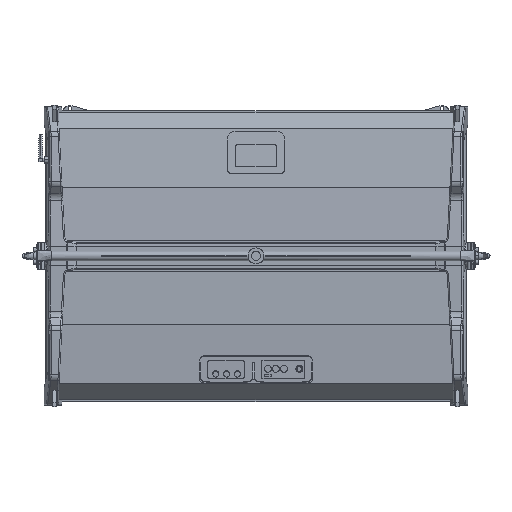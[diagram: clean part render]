
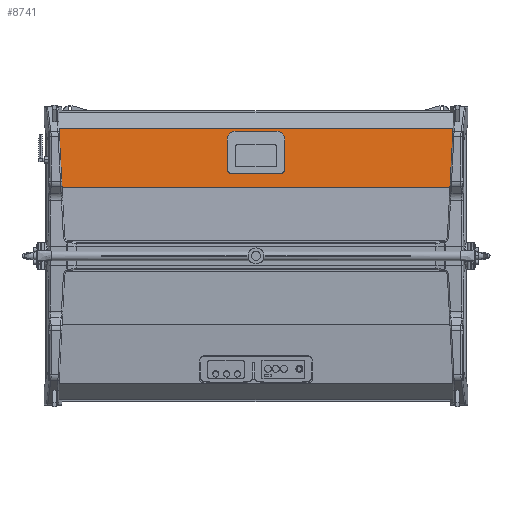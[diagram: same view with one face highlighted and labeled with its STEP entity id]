
A CAD part, top view. The second image highlights one B-rep face of the part: STEP entity #8741.
In plain terms, the highlighted planar face has unit normal (0, 0.087, 0.996).
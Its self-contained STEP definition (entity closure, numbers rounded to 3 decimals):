
#99 = ORIENTED_EDGE ( 'NONE', *, *, #21636, .T. ) ;
#390 = ORIENTED_EDGE ( 'NONE', *, *, #24080, .F. ) ;
#1388 = CIRCLE ( 'NONE', #28231, 12. ) ;
#1643 = LINE ( 'NONE', #21443, #23300 ) ;
#2759 = DIRECTION ( 'NONE',  ( 0., 0.087, 0.996 ) ) ;
#3448 = CARTESIAN_POINT ( 'NONE',  ( -65., 391.883, 107.763 ) ) ;
#3596 = PLANE ( 'NONE',  #28363 ) ;
#5156 = EDGE_CURVE ( 'NONE', #10873, #19718, #25302, .T. ) ;
#5469 = AXIS2_PLACEMENT_3D ( 'NONE', #16125, #36834, #19097 ) ;
#6130 = LINE ( 'NONE', #28105, #37594 ) ;
#6414 = LINE ( 'NONE', #20191, #29094 ) ;
#6518 = DIRECTION ( 'NONE',  ( 0., 0.996, -0.087 ) ) ;
#6721 = ORIENTED_EDGE ( 'NONE', *, *, #20884, .F. ) ;
#6966 = CARTESIAN_POINT ( 'NONE',  ( -601.508, 57.62, 137.007 ) ) ;
#7572 = EDGE_CURVE ( 'NONE', #19718, #12451, #22608, .T. ) ;
#7842 = ORIENTED_EDGE ( 'NONE', *, *, #27204, .F. ) ;
#8214 = ORIENTED_EDGE ( 'NONE', *, *, #5156, .F. ) ;
#8325 = CARTESIAN_POINT ( 'NONE',  ( 609.756, 215., 123.238 ) ) ;
#8741 = ADVANCED_FACE ( 'NONE', ( #11367, #27096 ), #3596, .F. ) ;
#9191 = DIRECTION ( 'NONE',  ( 0., 0.087, 0.996 ) ) ;
#9640 = VERTEX_POINT ( 'NONE', #17382 ) ;
#9969 = EDGE_LOOP ( 'NONE', ( #14684, #30597, #21936, #15293, #37199, #8214, #6721, #35944 ) ) ;
#10175 = CARTESIAN_POINT ( 'NONE',  ( -609.756, 215., 123.238 ) ) ;
#10387 = DIRECTION ( 'NONE',  ( -1., 0., 0. ) ) ;
#10512 = VECTOR ( 'NONE', #36695, 1000. ) ;
#10873 = VERTEX_POINT ( 'NONE', #32871 ) ;
#11044 = CARTESIAN_POINT ( 'NONE',  ( -78., 259.389, 119.354 ) ) ;
#11367 = FACE_OUTER_BOUND ( 'NONE', #11625, .T. ) ;
#11426 = VECTOR ( 'NONE', #21352, 1000. ) ;
#11625 = EDGE_LOOP ( 'NONE', ( #390, #99, #32592, #7842 ) ) ;
#11689 = VECTOR ( 'NONE', #34673, 1000. ) ;
#11717 = CARTESIAN_POINT ( 'NONE',  ( 619.483, 400.602, 107. ) ) ;
#12451 = VERTEX_POINT ( 'NONE', #30045 ) ;
#14017 = VERTEX_POINT ( 'NONE', #28384 ) ;
#14483 = CARTESIAN_POINT ( 'NONE',  ( -65., 391.883, 107.763 ) ) ;
#14684 = ORIENTED_EDGE ( 'NONE', *, *, #28662, .F. ) ;
#15293 = ORIENTED_EDGE ( 'NONE', *, *, #17636, .F. ) ;
#15302 = CARTESIAN_POINT ( 'NONE',  ( 643.5, 215., 123.238 ) ) ;
#15994 = CARTESIAN_POINT ( 'NONE',  ( -90., 366.979, 109.942 ) ) ;
#16042 = DIRECTION ( 'NONE',  ( 0., 0.996, -0.087 ) ) ;
#16125 = CARTESIAN_POINT ( 'NONE',  ( 65., 366.979, 109.942 ) ) ;
#16137 = CARTESIAN_POINT ( 'NONE',  ( -90., 271.344, 118.309 ) ) ;
#16172 = VERTEX_POINT ( 'NONE', #34621 ) ;
#16592 = DIRECTION ( 'NONE',  ( 0., 0.087, 0.996 ) ) ;
#17382 = CARTESIAN_POINT ( 'NONE',  ( 90., 271.344, 118.309 ) ) ;
#17636 = EDGE_CURVE ( 'NONE', #12451, #14017, #34329, .T. ) ;
#17691 = VERTEX_POINT ( 'NONE', #8325 ) ;
#18489 = CARTESIAN_POINT ( 'NONE',  ( 65., 391.883, 107.763 ) ) ;
#19097 = DIRECTION ( 'NONE',  ( 0., 0.996, -0.087 ) ) ;
#19267 = LINE ( 'NONE', #3448, #11426 ) ;
#19718 = VERTEX_POINT ( 'NONE', #16137 ) ;
#20086 = EDGE_CURVE ( 'NONE', #14017, #9640, #1388, .T. ) ;
#20174 = VERTEX_POINT ( 'NONE', #37695 ) ;
#20191 = CARTESIAN_POINT ( 'NONE',  ( 601.508, 57.62, 137.007 ) ) ;
#20413 = CARTESIAN_POINT ( 'NONE',  ( -65., 366.979, 109.942 ) ) ;
#20433 = EDGE_CURVE ( 'NONE', #32084, #29816, #19267, .T. ) ;
#20541 = EDGE_CURVE ( 'NONE', #9640, #20174, #23908, .T. ) ;
#20884 = EDGE_CURVE ( 'NONE', #29816, #10873, #26634, .T. ) ;
#21171 = EDGE_CURVE ( 'NONE', #16172, #31226, #30327, .T. ) ;
#21352 = DIRECTION ( 'NONE',  ( -1., 0., 0. ) ) ;
#21443 = CARTESIAN_POINT ( 'NONE',  ( 643.5, 400.602, 107. ) ) ;
#21636 = EDGE_CURVE ( 'NONE', #30396, #16172, #1643, .T. ) ;
#21936 = ORIENTED_EDGE ( 'NONE', *, *, #20086, .F. ) ;
#22608 = CIRCLE ( 'NONE', #23373, 12. ) ;
#23300 = VECTOR ( 'NONE', #24445, 1000. ) ;
#23373 = AXIS2_PLACEMENT_3D ( 'NONE', #26926, #9191, #29919 ) ;
#23408 = DIRECTION ( 'NONE',  ( 0., -0.996, 0.087 ) ) ;
#23908 = LINE ( 'NONE', #36748, #31779 ) ;
#24080 = EDGE_CURVE ( 'NONE', #30396, #17691, #6414, .T. ) ;
#24228 = DIRECTION ( 'NONE',  ( 0., -0.087, -0.996 ) ) ;
#24445 = DIRECTION ( 'NONE',  ( -1., 0., 0. ) ) ;
#25302 = LINE ( 'NONE', #15994, #10512 ) ;
#26589 = VECTOR ( 'NONE', #30530, 1000. ) ;
#26634 = CIRCLE ( 'NONE', #29983, 25. ) ;
#26926 = CARTESIAN_POINT ( 'NONE',  ( -78., 271.344, 118.309 ) ) ;
#27096 = FACE_BOUND ( 'NONE', #9969, .T. ) ;
#27204 = EDGE_CURVE ( 'NONE', #17691, #31226, #6130, .T. ) ;
#28105 = CARTESIAN_POINT ( 'NONE',  ( 643.5, 215., 123.238 ) ) ;
#28231 = AXIS2_PLACEMENT_3D ( 'NONE', #34288, #16592, #37313 ) ;
#28363 = AXIS2_PLACEMENT_3D ( 'NONE', #15302, #24228, #6518 ) ;
#28384 = CARTESIAN_POINT ( 'NONE',  ( 78., 259.389, 119.354 ) ) ;
#28662 = EDGE_CURVE ( 'NONE', #20174, #32084, #36522, .T. ) ;
#29094 = VECTOR ( 'NONE', #37925, 1000. ) ;
#29816 = VERTEX_POINT ( 'NONE', #14483 ) ;
#29919 = DIRECTION ( 'NONE',  ( 0., -0.996, 0.087 ) ) ;
#29983 = AXIS2_PLACEMENT_3D ( 'NONE', #20413, #2759, #23408 ) ;
#30045 = CARTESIAN_POINT ( 'NONE',  ( -78., 259.389, 119.354 ) ) ;
#30327 = LINE ( 'NONE', #6966, #26589 ) ;
#30396 = VERTEX_POINT ( 'NONE', #11717 ) ;
#30530 = DIRECTION ( 'NONE',  ( 0.052, -0.995, 0.087 ) ) ;
#30597 = ORIENTED_EDGE ( 'NONE', *, *, #20541, .F. ) ;
#31226 = VERTEX_POINT ( 'NONE', #10175 ) ;
#31779 = VECTOR ( 'NONE', #16042, 1000. ) ;
#32084 = VERTEX_POINT ( 'NONE', #18489 ) ;
#32592 = ORIENTED_EDGE ( 'NONE', *, *, #21171, .T. ) ;
#32871 = CARTESIAN_POINT ( 'NONE',  ( -90., 366.979, 109.942 ) ) ;
#34288 = CARTESIAN_POINT ( 'NONE',  ( 78., 271.344, 118.309 ) ) ;
#34329 = LINE ( 'NONE', #11044, #11689 ) ;
#34621 = CARTESIAN_POINT ( 'NONE',  ( -619.483, 400.602, 107. ) ) ;
#34673 = DIRECTION ( 'NONE',  ( 1., 0., 0. ) ) ;
#35944 = ORIENTED_EDGE ( 'NONE', *, *, #20433, .F. ) ;
#36522 = CIRCLE ( 'NONE', #5469, 25. ) ;
#36695 = DIRECTION ( 'NONE',  ( 0., -0.996, 0.087 ) ) ;
#36748 = CARTESIAN_POINT ( 'NONE',  ( 90., 366.979, 109.942 ) ) ;
#36834 = DIRECTION ( 'NONE',  ( 0., 0.087, 0.996 ) ) ;
#37199 = ORIENTED_EDGE ( 'NONE', *, *, #7572, .F. ) ;
#37313 = DIRECTION ( 'NONE',  ( 0., -0.996, 0.087 ) ) ;
#37594 = VECTOR ( 'NONE', #10387, 1000. ) ;
#37695 = CARTESIAN_POINT ( 'NONE',  ( 90., 366.979, 109.942 ) ) ;
#37925 = DIRECTION ( 'NONE',  ( -0.052, -0.995, 0.087 ) ) ;
